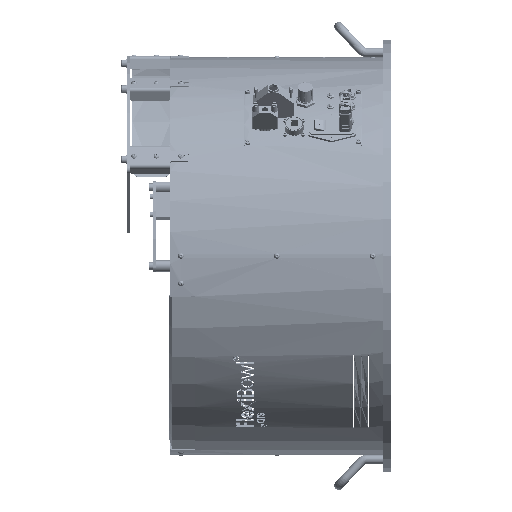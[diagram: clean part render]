
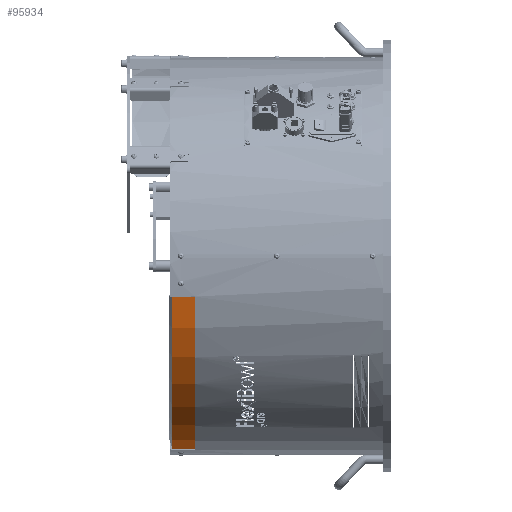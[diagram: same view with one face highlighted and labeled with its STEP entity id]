
A CAD part, left-side view. The second image highlights one B-rep face of the part: STEP entity #95934.
In plain terms, the highlighted cylindrical face has radius 265.5 mm (diameter 531 mm), a partial arc.
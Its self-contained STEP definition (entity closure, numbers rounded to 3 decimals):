
#1065 = DIRECTION ( 'NONE',  ( 0., 0., -1. ) ) ;
#14540 = DIRECTION ( 'NONE',  ( 0., 0., -1. ) ) ;
#58937 = FACE_OUTER_BOUND ( 'NONE', #435952, .T. ) ;
#86674 = DIRECTION ( 'NONE',  ( 1., 0., 0. ) ) ;
#92610 = EDGE_CURVE ( 'NONE', #489557, #297817, #380603, .T. ) ;
#95545 = CARTESIAN_POINT ( 'NONE',  ( -144.116, 222.982, 40. ) ) ;
#95934 = ADVANCED_FACE ( 'NONE', ( #58937 ), #305892, .T. ) ;
#104934 = LINE ( 'NONE', #95545, #363249 ) ;
#119545 = ORIENTED_EDGE ( 'NONE', *, *, #460898, .F. ) ;
#148835 = DIRECTION ( 'NONE',  ( 1., 0., 0. ) ) ;
#157136 = CARTESIAN_POINT ( 'NONE',  ( 0., 0., 40. ) ) ;
#190421 = AXIS2_PLACEMENT_3D ( 'NONE', #435001, #1065, #86674 ) ;
#252085 = DIRECTION ( 'NONE',  ( -1., 0., 0. ) ) ;
#259312 = CIRCLE ( 'NONE', #370632, 265.5 ) ;
#273181 = VECTOR ( 'NONE', #354217, 1000. ) ;
#279648 = VERTEX_POINT ( 'NONE', #517476 ) ;
#297817 = VERTEX_POINT ( 'NONE', #469711 ) ;
#304788 = ORIENTED_EDGE ( 'NONE', *, *, #316375, .T. ) ;
#305892 = CYLINDRICAL_SURFACE ( 'NONE', #347451, 265.5 ) ;
#316375 = EDGE_CURVE ( 'NONE', #564422, #489557, #343364, .T. ) ;
#323264 = CARTESIAN_POINT ( 'NONE',  ( 144.116, 222.982, 35.776 ) ) ;
#343364 = CIRCLE ( 'NONE', #190421, 265.5 ) ;
#347451 = AXIS2_PLACEMENT_3D ( 'NONE', #157136, #14540, #252085 ) ;
#349677 = ORIENTED_EDGE ( 'NONE', *, *, #92610, .T. ) ;
#354217 = DIRECTION ( 'NONE',  ( 0., 0., -1. ) ) ;
#363249 = VECTOR ( 'NONE', #396344, 1000. ) ;
#370632 = AXIS2_PLACEMENT_3D ( 'NONE', #392716, #490716, #148835 ) ;
#380603 = LINE ( 'NONE', #588366, #273181 ) ;
#392716 = CARTESIAN_POINT ( 'NONE',  ( 0., 0., 0. ) ) ;
#396344 = DIRECTION ( 'NONE',  ( 0., 0., -1. ) ) ;
#435001 = CARTESIAN_POINT ( 'NONE',  ( 0., 0., 35.776 ) ) ;
#435952 = EDGE_LOOP ( 'NONE', ( #119545, #304788, #349677, #594415 ) ) ;
#450071 = EDGE_CURVE ( 'NONE', #297817, #279648, #259312, .T. ) ;
#460898 = EDGE_CURVE ( 'NONE', #564422, #279648, #104934, .T. ) ;
#469711 = CARTESIAN_POINT ( 'NONE',  ( 144.116, 222.982, 0. ) ) ;
#489557 = VERTEX_POINT ( 'NONE', #323264 ) ;
#490716 = DIRECTION ( 'NONE',  ( 0., 0., 1. ) ) ;
#517476 = CARTESIAN_POINT ( 'NONE',  ( -144.116, 222.982, 0. ) ) ;
#564422 = VERTEX_POINT ( 'NONE', #597880 ) ;
#588366 = CARTESIAN_POINT ( 'NONE',  ( 144.116, 222.982, 40. ) ) ;
#594415 = ORIENTED_EDGE ( 'NONE', *, *, #450071, .T. ) ;
#597880 = CARTESIAN_POINT ( 'NONE',  ( -144.116, 222.982, 35.776 ) ) ;
